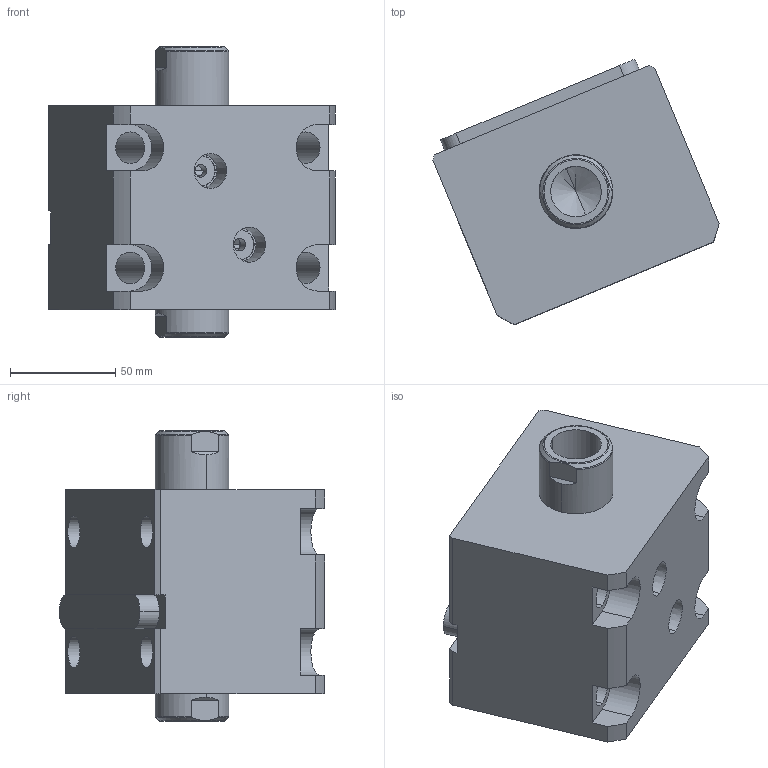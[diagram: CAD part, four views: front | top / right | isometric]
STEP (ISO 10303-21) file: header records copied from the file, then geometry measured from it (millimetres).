
FILE_DESCRIPTION (( 'STEP AP214' ), '1' );
FILE_NAME ('chtb-lw63x15n_asm.STEP', '2018-05-04T10:19:31', ( 'Windows' ), ( 'Microsoft' ), 'SwSTEP 2.0', 'SolidWorks 2015', '' );
FILE_SCHEMA (( 'AUTOMOTIVE_DESIGN' ));
Length unit declared in the file: millimetre
Products named in the file (5): CHTB-63QG; chtb-lw63x15n_asm; CHTB-LW63X15NBT; CHTB-SW63X15NHSG; CHTB-LA63PJ
Assembly tree (4 placements, depth 2):
  chtb-lw63x15n_asm
    CHTB-63QG
    CHTB-LA63PJ
    CHTB-LW63X15NBT
    CHTB-SW63X15NHSG
Bounding box: 135.77 x 126.06 x 138 mm (x, y, z)
Volume: 891512.9 mm3; surface area: 142887.5 mm2
Topology: 4 solids, 4 shells, 194 faces, 563 edges, 381 vertices
Faces by surface type: cylinder 104, plane 50, cone 16, bspline 12, torus 12
Entity records: 18887 total; most frequent: CARTESIAN_POINT 13868, ORIENTED_EDGE 1110, DIRECTION 876, EDGE_CURVE 555, VERTEX_POINT 381, AXIS2_PLACEMENT_3D 336, EDGE_LOOP 222, VECTOR 204
